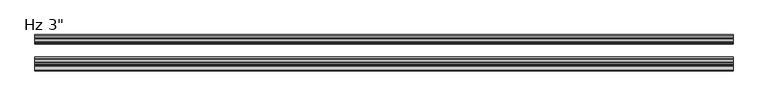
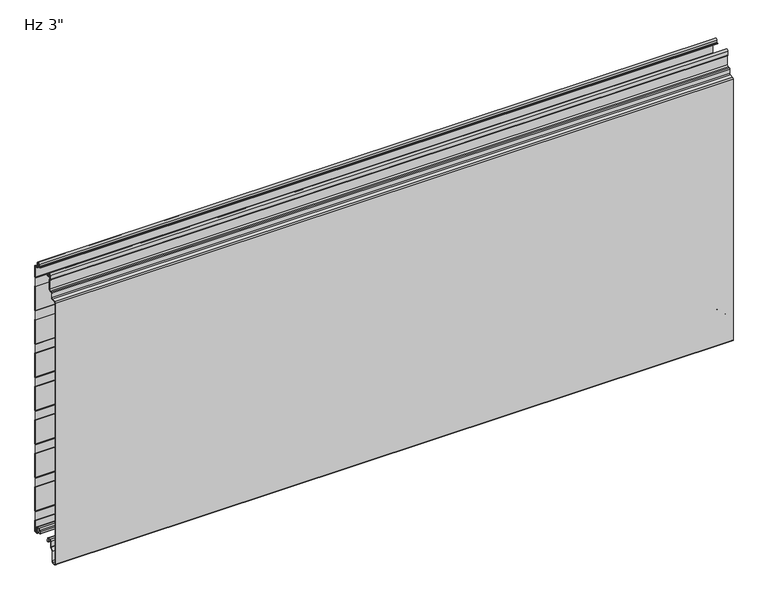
"""IFC4 building model written with IfcOpenShell, lengths in millimetres: plate geometry."""

from ifc_helpers import new_model, si_unit, point, frame, frame_2d, origin, place, context, project, spatial, polyline, circle_curve, trimmed, segment, composite_curve, outline, extrude, source, transform, mapped, element, save
from ifc_brep_helpers import plane_surface, cylinder_surface, revolved_surface, advanced_brep


def plate_dfc03996(model_context):
    return source(origin(), model_context, "Body", "SolidModel", [
        advanced_brep(
        [(-730.0, -17.0015159, 2.0313088), (-730.0, -18.0015191, 1.0313116), (-730.0, -19.0015104, 2.0313088), (-730.0, -19.0015105, 6.0315125), (-730.0, -18.0015159, 6.0315125), (-730.0, -18.0015159, 8.7237223), (-730.0, -14.7015202, 12.023718), (-730.0, -10.301529, 12.023718), (-730.0, -7.0015335, 8.7237225), (-730.0, -7.0015335, -1.6962564), (-730.0, -5.2315393, -3.4662506), (-730.0, -0.9999916, -3.4662506), (-730.0, -0.9999916, 21.034026), (-730.0, -2.2002307, 22.4196686), (-730.0, -2.2002307, 41.7948349), (-730.0, -1.0, 43.1804679), (-730.0, -1.0, 97.2338833), (-730.0, -2.2002307, 98.6195162), (-730.0, -2.2002307, 117.9946825), (-730.0, -1.0, 119.3803155), (-730.0, -1.0, 173.4337309), (-730.0, -2.2002307, 174.8193638), (-730.0, -2.2002307, 194.1945301), (-730.0, -1.0, 195.5801631), (-730.0, -1.0, 249.6335785), (-730.0, -2.2002307, 251.0192114), (-730.0, -2.2002307, 270.3943777), (-730.0, -1.0, 271.7800107), (-730.0, -1.0, 325.8334261), (-730.0, -2.2002307, 327.219059), (-730.0, -2.2002307, 346.5942253), (-730.0, -1.0, 347.9798583), (-730.0, -1.0, 402.0332737), (-730.0, -2.2002307, 403.4189066), (-730.0, -2.2002307, 422.7940729), (-730.0, -1.0, 424.1797059), (-730.0, -1.0, 478.2331213), (-730.0, -2.2002307, 479.6187542), (-730.0, -2.2002307, 498.9939205), (-730.0, -1.0, 500.3795535), (-730.0, -1.0, 554.4329689), (-730.0, -2.2002307, 555.8186018), (-730.0, -2.2002307, 575.1937681), (-730.0, -1.0, 576.5794011), (-730.0, -1.0, 601.0787013), (-730.0, -6.0026007, 601.0787013), (-730.0, -9.9974365, 604.9016499), (-730.0, -10.4046442, 613.3931719), (-730.0, -14.7059822, 613.3921924), (-730.0, -14.9256429, 609.2513685), (-730.0, -16.6743462, 607.5686884), (-730.0, -19.0015288, 607.5686884), (-730.0, -19.0015288, 608.5686884), (-730.0, -16.6743462, 608.5686884), (-730.0, -15.9247038, 609.2955779), (-730.0, -15.7045782, 613.4451655), (-730.0, -9.405912, 613.4435732), (-730.0, -8.9985844, 604.9495495), (-730.0, -6.0004836, 602.0787013), (-730.0, -1.4015652, 602.0787013), (-730.0, -0.001568, 600.678797), (-730.0, 2.09e-05, 576.7275849), (-730.0, -0.3417885, 575.8119353), (-730.0, -1.2002307, 574.8208877), (-730.0, -1.2002307, 556.1914823), (-730.0, -0.3417885, 555.2004346), (-730.0, 0.0, 554.2838177), (-730.0, 0.0, 500.5287046), (-730.0, -0.3417885, 499.6120877), (-730.0, -1.2002307, 498.6210401), (-730.0, -1.2002307, 479.9916347), (-730.0, -0.3417885, 479.000587), (-730.0, 0.0, 478.0839701), (-730.0, 0.0, 424.328857), (-730.0, -0.3417885, 423.4122401), (-730.0, -1.2002307, 422.4211925), (-730.0, -1.2002307, 403.7917871), (-730.0, -0.3417885, 402.8007394), (-730.0, 0.0, 401.8841225), (-730.0, 0.0, 348.1290094), (-730.0, -0.3417885, 347.2123925), (-730.0, -1.2002307, 346.2213449), (-730.0, -1.2002307, 327.5919395), (-730.0, -0.3417885, 326.6008918), (-730.0, 0.0, 325.6842749), (-730.0, 0.0, 271.9291618), (-730.0, -0.3417885, 271.0125449), (-730.0, -1.2002307, 270.0214973), (-730.0, -1.2002307, 251.3920919), (-730.0, -0.3417885, 250.4010442), (-730.0, 0.0, 249.4844273), (-730.0, 0.0, 195.7293142), (-730.0, -0.3417885, 194.8126973), (-730.0, -1.2002307, 193.8216497), (-730.0, -1.2002307, 175.1922443), (-730.0, -0.3417885, 174.2011966), (-730.0, 0.0, 173.2845797), (-730.0, 0.0, 119.5294666), (-730.0, -0.3417885, 118.6128497), (-730.0, -1.2002307, 117.6218021), (-730.0, -1.2002307, 98.9923967), (-730.0, -0.3417885, 98.001349), (-730.0, 0.0, 97.0847321), (-730.0, 0.0, 43.329619), (-730.0, -0.3417885, 42.4130021), (-730.0, -1.2002307, 41.4219545), (-730.0, -1.2002307, 22.7925491), (-730.0, -0.3417885, 21.8015014), (-730.0, 0.0, 20.8847931), (-730.0, 8.4e-06, -3.0662545), (-730.0, -1.3999878, -4.4662506), (-730.0, -5.2315393, -4.4662506), (-730.0, -8.0015335, -1.6962564), (-730.0, -8.0015335, 8.7237225), (-730.0, -10.301529, 11.023718), (-730.0, -14.7015202, 11.023718), (-730.0, -17.0015159, 8.7237223), (730.0, -17.0015159, 2.0313088), (730.0, -17.0015159, 8.7237223), (730.0, -14.7015202, 11.023718), (730.0, -10.301529, 11.023718), (730.0, -8.0015335, 8.7237225), (730.0, -8.0015335, -1.6962564), (730.0, -5.2315393, -4.4662506), (730.0, -1.3999878, -4.4662506), (730.0, 8.4e-06, -3.0662545), (730.0, 8.4e-06, 20.8848845), (730.0, -0.3417885, 21.8015014), (730.0, -1.2002307, 22.7925491), (730.0, -1.2002307, 41.4219545), (730.0, -0.3417885, 42.4130021), (730.0, 0.0, 43.329619), (730.0, 0.0, 97.0847321), (730.0, -0.3417885, 98.001349), (730.0, -1.2002307, 98.9923967), (730.0, -1.2002307, 117.6218021), (730.0, -0.3417885, 118.6128497), (730.0, 0.0, 119.5294666), (730.0, 0.0, 173.2845797), (730.0, -0.3417885, 174.2011966), (730.0, -1.2002307, 175.1922443), (730.0, -1.2002307, 193.8216497), (730.0, -0.3417885, 194.8126973), (730.0, 0.0, 195.7293142), (730.0, 0.0, 249.4844273), (730.0, -0.3417885, 250.4010442), (730.0, -1.2002307, 251.3920919), (730.0, -1.2002307, 270.0214973), (730.0, -0.3417885, 271.0125449), (730.0, 0.0, 271.9291618), (730.0, 0.0, 325.6842749), (730.0, -0.3417885, 326.6008918), (730.0, -1.2002307, 327.5919395), (730.0, -1.2002307, 346.2213449), (730.0, -0.3417885, 347.2123925), (730.0, 0.0, 348.1290094), (730.0, 0.0, 401.8841225), (730.0, -0.3417885, 402.8007394), (730.0, -1.2002307, 403.7917871), (730.0, -1.2002307, 422.4211925), (730.0, -0.3417885, 423.4122401), (730.0, 0.0, 424.328857), (730.0, 0.0, 478.0839701), (730.0, -0.3417885, 479.000587), (730.0, -1.2002307, 479.9916347), (730.0, -1.2002307, 498.6210401), (730.0, -0.3417885, 499.6120877), (730.0, 0.0, 500.5287046), (730.0, 0.0, 554.2838177), (730.0, -0.3417885, 555.2004346), (730.0, -1.2002307, 556.1914823), (730.0, -1.2002307, 574.8208877), (730.0, -0.3417885, 575.8119353), (730.0, 0.0, 576.7285522), (730.0, 2.09e-05, 600.678797), (730.0, -1.4015652, 602.0787013), (730.0, -6.0004836, 602.0787013), (730.0, -8.9985844, 604.9495495), (730.0, -9.405912, 613.4435732), (730.0, -15.7045782, 613.4451655), (730.0, -15.9247038, 609.2955779), (730.0, -16.6743462, 608.5686884), (730.0, -19.0015288, 608.5686884), (730.0, -19.0015288, 607.5686884), (730.0, -16.6743462, 607.5686884), (730.0, -14.9256429, 609.2513685), (730.0, -14.7059822, 613.3921924), (730.0, -10.4046442, 613.3931719), (730.0, -9.9974365, 604.9016499), (730.0, -6.0026007, 601.0787013), (730.0, -1.0, 601.0787013), (730.0, -1.0, 576.5794011), (730.0, -2.2002307, 575.1937681), (730.0, -2.2002307, 555.8186018), (730.0, -1.0, 554.4329689), (730.0, -1.0, 500.3795535), (730.0, -2.2002307, 498.9939205), (730.0, -2.2002307, 479.6187542), (730.0, -1.0, 478.2331213), (730.0, -1.0, 424.1797059), (730.0, -2.2002307, 422.7940729), (730.0, -2.2002307, 403.4189066), (730.0, -1.0, 402.0332737), (730.0, -1.0, 347.9798583), (730.0, -2.2002307, 346.5942253), (730.0, -2.2002307, 327.219059), (730.0, -1.0, 325.8334261), (730.0, -1.0, 271.7800107), (730.0, -2.2002307, 270.3943777), (730.0, -2.2002307, 251.0192114), (730.0, -1.0, 249.6335785), (730.0, -1.0, 195.5801631), (730.0, -2.2002307, 194.1945301), (730.0, -2.2002307, 174.8193638), (730.0, -1.0, 173.4337309), (730.0, -1.0, 119.3803155), (730.0, -2.2002307, 117.9946825), (730.0, -2.2002307, 98.6195162), (730.0, -1.0, 97.2338833), (730.0, -1.0, 43.1804679), (730.0, -2.2002307, 41.7948349), (730.0, -2.2002307, 22.4196686), (730.0, -0.9999916, 21.034026), (730.0, -0.9999916, -3.4662506), (730.0, -5.2315393, -3.4662506), (730.0, -7.0015335, -1.6962564), (730.0, -7.0015335, 8.7237225), (730.0, -10.301529, 12.023718), (730.0, -14.7015202, 12.023718), (730.0, -18.0015159, 8.7237223), (730.0, -18.0015159, 6.0315125), (730.0, -19.0015105, 6.0315125), (730.0, -19.0015105, 2.0313088), (730.0, -18.0015191, 1.0313116)],
        [
            (0, 1, circle_curve(frame((-730.0, -18.0015132, 2.0313088), z_axis=(-1.0, 0.0, 0.0), x_axis=(0.0, 0.0, 1.0)), 0.9999973)),
            (1, 2, circle_curve(frame((-730.0, -18.0015132, 2.0313088), z_axis=(-1.0, 0.0, 0.0), x_axis=(0.0, 0.0, 1.0)), 0.9999972)),
            (2, 3),
            (3, 4),
            (4, 5),
            (5, 6, circle_curve(frame((-730.0, -14.7015202, 8.7237223), z_axis=(-1.0, 0.0, 0.0), x_axis=(0.0, 0.0, 1.0)), 3.2999957)),
            (6, 7),
            (7, 8, circle_curve(frame((-730.0, -10.301529, 8.7237225), z_axis=(-1.0, 0.0, 0.0), x_axis=(0.0, 0.0, 1.0)), 3.2999955)),
            (8, 9),
            (9, 10, circle_curve(frame((-730.0, -5.2315393, -1.6962564), z_axis=(1.0, 0.0, 0.0), x_axis=(0.0, 0.0, 1.0)), 1.7699942)),
            (10, 11),
            (11, 12),
            (12, 13),
            (13, 14),
            (14, 15),
            (15, 16),
            (16, 17),
            (17, 18),
            (18, 19),
            (19, 20),
            (20, 21),
            (21, 22),
            (22, 23),
            (23, 24),
            (24, 25),
            (25, 26),
            (26, 27),
            (27, 28),
            (28, 29),
            (29, 30),
            (30, 31),
            (31, 32),
            (32, 33),
            (33, 34),
            (34, 35),
            (35, 36),
            (36, 37),
            (37, 38),
            (38, 39),
            (39, 40),
            (40, 41),
            (41, 42),
            (42, 43),
            (43, 44),
            (44, 45),
            (45, 46, circle_curve(frame((-730.0, -5.9867338, 605.0939817), z_axis=(-1.0, 0.0, 0.0), x_axis=(0.0, 0.0, 1.0)), 4.0153117)),
            (46, 47),
            (47, 48, circle_curve(frame((-730.0, -12.5552871, 613.2781032), z_axis=(1.0, 0.0, 0.0), x_axis=(0.0, 0.0, 1.0)), 2.153719)),
            (48, 49),
            (49, 50, circle_curve(frame((-730.0, -16.6743462, 609.3186869), z_axis=(-1.0, 0.0, 0.0), x_axis=(0.0, 0.0, 1.0)), 1.7499985)),
            (50, 51),
            (51, 52),
            (52, 53),
            (53, 54, circle_curve(frame((-730.0, -16.6743462, 609.3186869), z_axis=(1.0, 0.0, 0.0), x_axis=(0.0, 0.0, 1.0)), 0.7499985)),
            (54, 55),
            (55, 56, circle_curve(frame((-730.0, -12.5552871, 613.2781032), z_axis=(-1.0, 0.0, 0.0), x_axis=(0.0, 0.0, 1.0)), 3.153719)),
            (56, 57),
            (57, 58, circle_curve(frame((-730.0, -5.9867338, 605.0939817), z_axis=(1.0, 0.0, 0.0), x_axis=(0.0, 0.0, 1.0)), 3.0153117)),
            (58, 59),
            (59, 60, circle_curve(frame((-730.0, -1.4015652, 600.6787041), z_axis=(-1.0, 0.0, 0.0), x_axis=(0.0, 0.0, 1.0)), 1.3999972)),
            (60, 61),
            (61, 62, circle_curve(frame((-730.0, -1.3999972, 576.7285522), z_axis=(-1.0, 0.0, 0.0), x_axis=(0.0, 0.0, 1.0)), 1.3999972)),
            (62, 63),
            (63, 64),
            (64, 65),
            (65, 66, circle_curve(frame((-730.0, -1.3999972, 554.2838177), z_axis=(-1.0, 0.0, 0.0), x_axis=(0.0, 0.0, 1.0)), 1.3999972)),
            (66, 67),
            (67, 68, circle_curve(frame((-730.0, -1.3999972, 500.5287046), z_axis=(-1.0, 0.0, 0.0), x_axis=(0.0, 0.0, 1.0)), 1.3999972)),
            (68, 69),
            (69, 70),
            (70, 71),
            (71, 72, circle_curve(frame((-730.0, -1.3999972, 478.0839701), z_axis=(-1.0, 0.0, 0.0), x_axis=(0.0, 0.0, 1.0)), 1.3999972)),
            (72, 73),
            (73, 74, circle_curve(frame((-730.0, -1.3999972, 424.328857), z_axis=(-1.0, 0.0, 0.0), x_axis=(0.0, 0.0, 1.0)), 1.3999972)),
            (74, 75),
            (75, 76),
            (76, 77),
            (77, 78, circle_curve(frame((-730.0, -1.3999972, 401.8841225), z_axis=(-1.0, 0.0, 0.0), x_axis=(0.0, 0.0, 1.0)), 1.3999972)),
            (78, 79),
            (79, 80, circle_curve(frame((-730.0, -1.3999972, 348.1290094), z_axis=(-1.0, 0.0, 0.0), x_axis=(0.0, 0.0, 1.0)), 1.3999972)),
            (80, 81),
            (81, 82),
            (82, 83),
            (83, 84, circle_curve(frame((-730.0, -1.3999972, 325.6842749), z_axis=(-1.0, 0.0, 0.0), x_axis=(0.0, 0.0, 1.0)), 1.3999972)),
            (84, 85),
            (85, 86, circle_curve(frame((-730.0, -1.3999972, 271.9291618), z_axis=(-1.0, 0.0, 0.0), x_axis=(0.0, 0.0, 1.0)), 1.3999972)),
            (86, 87),
            (87, 88),
            (88, 89),
            (89, 90, circle_curve(frame((-730.0, -1.3999972, 249.4844273), z_axis=(-1.0, 0.0, 0.0), x_axis=(0.0, 0.0, 1.0)), 1.3999972)),
            (90, 91),
            (91, 92, circle_curve(frame((-730.0, -1.3999972, 195.7293142), z_axis=(-1.0, 0.0, 0.0), x_axis=(0.0, 0.0, 1.0)), 1.3999972)),
            (92, 93),
            (93, 94),
            (94, 95),
            (95, 96, circle_curve(frame((-730.0, -1.3999972, 173.2845797), z_axis=(-1.0, 0.0, 0.0), x_axis=(0.0, 0.0, 1.0)), 1.3999972)),
            (96, 97),
            (97, 98, circle_curve(frame((-730.0, -1.3999972, 119.5294666), z_axis=(-1.0, 0.0, 0.0), x_axis=(0.0, 0.0, 1.0)), 1.3999972)),
            (98, 99),
            (99, 100),
            (100, 101),
            (101, 102, circle_curve(frame((-730.0, -1.3999972, 97.0847321), z_axis=(-1.0, 0.0, 0.0), x_axis=(0.0, 0.0, 1.0)), 1.3999972)),
            (102, 103),
            (103, 104, circle_curve(frame((-730.0, -1.3999972, 43.329619), z_axis=(-1.0, 0.0, 0.0), x_axis=(0.0, 0.0, 1.0)), 1.3999972)),
            (104, 105),
            (105, 106),
            (106, 107),
            (107, 108, circle_curve(frame((-730.0, -1.3999972, 20.8848845), z_axis=(-1.0, 0.0, 0.0), x_axis=(0.0, 0.0, 1.0)), 1.3999972)),
            (108, 109),
            (109, 110, circle_curve(frame((-730.0, -1.3999878, -3.0662545), z_axis=(-1.0, 0.0, 0.0), x_axis=(0.0, 0.0, 1.0)), 1.3999962)),
            (110, 111),
            (111, 112, circle_curve(frame((-730.0, -5.2315393, -1.6962564), z_axis=(-1.0, 0.0, 0.0), x_axis=(0.0, 0.0, 1.0)), 2.7699942)),
            (112, 113),
            (113, 114, circle_curve(frame((-730.0, -10.301529, 8.7237225), z_axis=(1.0, 0.0, 0.0), x_axis=(0.0, 0.0, 1.0)), 2.2999955)),
            (114, 115),
            (115, 116, circle_curve(frame((-730.0, -14.7015202, 8.7237223), z_axis=(1.0, 0.0, 0.0), x_axis=(0.0, 0.0, 1.0)), 2.2999957)),
            (116, 0),
            (117, 118),
            (118, 119, circle_curve(frame((730.0, -14.7015202, 8.7237223), z_axis=(-1.0, 0.0, 0.0), x_axis=(0.0, 0.0, 1.0)), 2.2999957)),
            (119, 120),
            (120, 121, circle_curve(frame((730.0, -10.301529, 8.7237225), z_axis=(-1.0, 0.0, 0.0), x_axis=(0.0, 0.0, 1.0)), 2.2999955)),
            (121, 122),
            (122, 123, circle_curve(frame((730.0, -5.2315393, -1.6962564), z_axis=(1.0, 0.0, 0.0), x_axis=(0.0, 0.0, 1.0)), 2.7699942)),
            (123, 124),
            (124, 125, circle_curve(frame((730.0, -1.3999878, -3.0662545), z_axis=(1.0, 0.0, 0.0), x_axis=(0.0, 0.0, 1.0)), 1.3999962)),
            (125, 126),
            (126, 127, circle_curve(frame((730.0, -1.3999972, 20.8848845), z_axis=(1.0, 0.0, 0.0), x_axis=(0.0, 0.0, 1.0)), 1.3999972)),
            (127, 128),
            (128, 129),
            (129, 130),
            (130, 131, circle_curve(frame((730.0, -1.3999972, 43.329619), z_axis=(1.0, 0.0, 0.0), x_axis=(0.0, 0.0, 1.0)), 1.3999972)),
            (131, 132),
            (132, 133, circle_curve(frame((730.0, -1.3999972, 97.0847321), z_axis=(1.0, 0.0, 0.0), x_axis=(0.0, 0.0, 1.0)), 1.3999972)),
            (133, 134),
            (134, 135),
            (135, 136),
            (136, 137, circle_curve(frame((730.0, -1.3999972, 119.5294666), z_axis=(1.0, 0.0, 0.0), x_axis=(0.0, 0.0, 1.0)), 1.3999972)),
            (137, 138),
            (138, 139, circle_curve(frame((730.0, -1.3999972, 173.2845797), z_axis=(1.0, 0.0, 0.0), x_axis=(0.0, 0.0, 1.0)), 1.3999972)),
            (139, 140),
            (140, 141),
            (141, 142),
            (142, 143, circle_curve(frame((730.0, -1.3999972, 195.7293142), z_axis=(1.0, 0.0, 0.0), x_axis=(0.0, 0.0, 1.0)), 1.3999972)),
            (143, 144),
            (144, 145, circle_curve(frame((730.0, -1.3999972, 249.4844273), z_axis=(1.0, 0.0, 0.0), x_axis=(0.0, 0.0, 1.0)), 1.3999972)),
            (145, 146),
            (146, 147),
            (147, 148),
            (148, 149, circle_curve(frame((730.0, -1.3999972, 271.9291618), z_axis=(1.0, 0.0, 0.0), x_axis=(0.0, 0.0, 1.0)), 1.3999972)),
            (149, 150),
            (150, 151, circle_curve(frame((730.0, -1.3999972, 325.6842749), z_axis=(1.0, 0.0, 0.0), x_axis=(0.0, 0.0, 1.0)), 1.3999972)),
            (151, 152),
            (152, 153),
            (153, 154),
            (154, 155, circle_curve(frame((730.0, -1.3999972, 348.1290094), z_axis=(1.0, 0.0, 0.0), x_axis=(0.0, 0.0, 1.0)), 1.3999972)),
            (155, 156),
            (156, 157, circle_curve(frame((730.0, -1.3999972, 401.8841225), z_axis=(1.0, 0.0, 0.0), x_axis=(0.0, 0.0, 1.0)), 1.3999972)),
            (157, 158),
            (158, 159),
            (159, 160),
            (160, 161, circle_curve(frame((730.0, -1.3999972, 424.328857), z_axis=(1.0, 0.0, 0.0), x_axis=(0.0, 0.0, 1.0)), 1.3999972)),
            (161, 162),
            (162, 163, circle_curve(frame((730.0, -1.3999972, 478.0839701), z_axis=(1.0, 0.0, 0.0), x_axis=(0.0, 0.0, 1.0)), 1.3999972)),
            (163, 164),
            (164, 165),
            (165, 166),
            (166, 167, circle_curve(frame((730.0, -1.3999972, 500.5287046), z_axis=(1.0, 0.0, 0.0), x_axis=(0.0, 0.0, 1.0)), 1.3999972)),
            (167, 168),
            (168, 169, circle_curve(frame((730.0, -1.3999972, 554.2838177), z_axis=(1.0, 0.0, 0.0), x_axis=(0.0, 0.0, 1.0)), 1.3999972)),
            (169, 170),
            (170, 171),
            (171, 172),
            (172, 173, circle_curve(frame((730.0, -1.3999972, 576.7285522), z_axis=(1.0, 0.0, 0.0), x_axis=(0.0, 0.0, 1.0)), 1.3999972)),
            (173, 174),
            (174, 175, circle_curve(frame((730.0, -1.4015652, 600.6787041), z_axis=(1.0, 0.0, 0.0), x_axis=(0.0, 0.0, 1.0)), 1.3999972)),
            (175, 176),
            (176, 177, circle_curve(frame((730.0, -5.9867338, 605.0939817), z_axis=(-1.0, 0.0, 0.0), x_axis=(0.0, 0.0, 1.0)), 3.0153117)),
            (177, 178),
            (178, 179, circle_curve(frame((730.0, -12.5552871, 613.2781032), z_axis=(1.0, 0.0, 0.0), x_axis=(0.0, 0.0, 1.0)), 3.153719)),
            (179, 180),
            (180, 181, circle_curve(frame((730.0, -16.6743462, 609.3186869), z_axis=(-1.0, 0.0, 0.0), x_axis=(0.0, 0.0, 1.0)), 0.7499985)),
            (181, 182),
            (182, 183),
            (183, 184),
            (184, 185, circle_curve(frame((730.0, -16.6743462, 609.3186869), z_axis=(1.0, 0.0, 0.0), x_axis=(0.0, 0.0, 1.0)), 1.7499985)),
            (185, 186),
            (186, 187, circle_curve(frame((730.0, -12.5552871, 613.2781032), z_axis=(-1.0, 0.0, 0.0), x_axis=(0.0, 0.0, 1.0)), 2.153719)),
            (187, 188),
            (188, 189, circle_curve(frame((730.0, -5.9867338, 605.0939817), z_axis=(1.0, 0.0, 0.0), x_axis=(0.0, 0.0, 1.0)), 4.0153117)),
            (189, 190),
            (190, 191),
            (191, 192),
            (192, 193),
            (193, 194),
            (194, 195),
            (195, 196),
            (196, 197),
            (197, 198),
            (198, 199),
            (199, 200),
            (200, 201),
            (201, 202),
            (202, 203),
            (203, 204),
            (204, 205),
            (205, 206),
            (206, 207),
            (207, 208),
            (208, 209),
            (209, 210),
            (210, 211),
            (211, 212),
            (212, 213),
            (213, 214),
            (214, 215),
            (215, 216),
            (216, 217),
            (217, 218),
            (218, 219),
            (219, 220),
            (220, 221),
            (221, 222),
            (222, 223),
            (223, 224),
            (224, 225, circle_curve(frame((730.0, -5.2315393, -1.6962564), z_axis=(-1.0, 0.0, 0.0), x_axis=(0.0, 0.0, 1.0)), 1.7699942)),
            (225, 226),
            (226, 227, circle_curve(frame((730.0, -10.301529, 8.7237225), z_axis=(1.0, 0.0, 0.0), x_axis=(0.0, 0.0, 1.0)), 3.2999955)),
            (227, 228),
            (228, 229, circle_curve(frame((730.0, -14.7015202, 8.7237223), z_axis=(1.0, 0.0, 0.0), x_axis=(0.0, 0.0, 1.0)), 3.2999957)),
            (229, 230),
            (230, 231),
            (231, 232),
            (232, 233, circle_curve(frame((730.0, -18.0015132, 2.0313088), z_axis=(1.0, 0.0, 0.0), x_axis=(0.0, 0.0, 1.0)), 0.9999972)),
            (233, 117, circle_curve(frame((730.0, -18.0015132, 2.0313088), z_axis=(1.0, 0.0, 0.0), x_axis=(0.0, 0.0, 1.0)), 0.9999973)),
            (116, 118),
            (117, 0),
            (115, 119),
            (114, 120),
            (113, 121),
            (112, 122),
            (111, 123),
            (110, 124),
            (109, 125),
            (108, 126),
            (90, 144),
            (143, 91),
            (107, 127),
            (106, 128),
            (105, 129),
            (103, 131),
            (130, 104),
            (101, 133),
            (132, 102),
            (86, 148),
            (147, 87),
            (142, 92),
            (141, 93),
            (96, 138),
            (137, 97),
            (89, 145),
            (88, 146),
            (85, 149),
            (136, 98),
            (99, 135),
            (134, 100),
            (95, 139),
            (94, 140),
            (2, 232),
            (231, 3),
            (1, 233),
            (84, 150),
            (83, 151),
            (82, 152),
            (81, 153),
            (80, 154),
            (79, 155),
            (78, 156),
            (77, 157),
            (76, 158),
            (75, 159),
            (74, 160),
            (73, 161),
            (72, 162),
            (71, 163),
            (70, 164),
            (69, 165),
            (68, 166),
            (67, 167),
            (66, 168),
            (65, 169),
            (64, 170),
            (63, 171),
            (62, 172),
            (61, 173),
            (60, 174),
            (59, 175),
            (58, 176),
            (57, 177),
            (56, 178),
            (55, 179),
            (54, 180),
            (53, 181),
            (52, 182),
            (51, 183),
            (50, 184),
            (49, 185),
            (48, 186),
            (47, 187),
            (46, 188),
            (45, 189),
            (44, 190),
            (43, 191),
            (42, 192),
            (41, 193),
            (40, 194),
            (39, 195),
            (38, 196),
            (37, 197),
            (36, 198),
            (35, 199),
            (34, 200),
            (33, 201),
            (32, 202),
            (31, 203),
            (30, 204),
            (29, 205),
            (28, 206),
            (27, 207),
            (26, 208),
            (25, 209),
            (24, 210),
            (23, 211),
            (22, 212),
            (21, 213),
            (20, 214),
            (19, 215),
            (18, 216),
            (17, 217),
            (16, 218),
            (15, 219),
            (14, 220),
            (13, 221),
            (12, 222),
            (11, 223),
            (10, 224),
            (9, 225),
            (8, 226),
            (7, 227),
            (6, 228),
            (5, 229),
            (4, 230),
        ],
        [
            plane_surface(frame((-730.0, 0.0, 304.8), z_axis=(-1.0, 0.0, 0.0), x_axis=(0.0, 1.0, 0.0))),
            plane_surface(frame((730.0, 0.0, 304.8), z_axis=(1.0, 0.0, 0.0), x_axis=(0.0, 1.0, 0.0))),
            plane_surface(frame((-730.0, -17.0015159, 2.0313088), z_axis=(0.0, 1.0, 0.0), x_axis=(1.0, 0.0, 0.0))),
            revolved_surface(polyline([(730.0, -14.7015202, 11.023718), (-730.0, -14.7015202, 11.023718)]), (-730.0, -14.7015202, 8.7237223), (1.0, 0.0, 0.0)),
            plane_surface(frame((-730.0, -14.7015202, 11.023718), z_axis=(0.0, 0.0, -1.0), x_axis=(1.0, 0.0, 0.0))),
            revolved_surface(polyline([(730.0, -10.301529, 11.023717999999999), (-730.0, -10.301529, 11.023717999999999)]), (-730.0, -10.301529, 8.7237225), (1.0, 0.0, 0.0)),
            plane_surface(frame((-730.0, -8.0015335, 8.7237225), z_axis=(0.0, -1.0, 0.0), x_axis=(1.0, 0.0, 0.0))),
            cylinder_surface(frame((-730.0, -5.2315393, -1.6962564), z_axis=(-1.0, 0.0, 0.0), x_axis=(0.0, 0.0, 1.0)), 2.7699942),
            plane_surface(frame((-730.0, -5.2315393, -4.4662506), z_axis=(0.0, 0.0, -1.0), x_axis=(1.0, 0.0, 0.0))),
            cylinder_surface(frame((-730.0, -1.3999878, -3.0662545), z_axis=(-1.0, 0.0, 0.0), x_axis=(0.0, 0.0, 1.0)), 1.3999962),
            plane_surface(frame((-730.0, 8.4e-06, -3.0662545), z_axis=(0.0, 1.0, 0.0), x_axis=(1.0, 0.0, 0.0))),
            plane_surface(frame((-730.0, 0.0, 195.7293142), z_axis=(0.0, 1.0, 0.0), x_axis=(1.0, 0.0, 0.0))),
            cylinder_surface(frame((-730.0, -1.3999972, 20.8848845), z_axis=(-1.0, 0.0, 0.0), x_axis=(0.0, 0.0, 1.0)), 1.3999972),
            plane_surface(frame((-730.0, -0.3417885, 21.8015014), z_axis=(0.0, 0.755864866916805, 0.6547276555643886), x_axis=(1.0, 0.0, 0.0))),
            plane_surface(frame((-730.0, -1.2002307, 32.1072518), z_axis=(0.0, 1.0, 0.0), x_axis=(1.0, 0.0, 0.0))),
            cylinder_surface(frame((-730.0, -1.3999972, 43.329619), z_axis=(-1.0, 0.0, 0.0), x_axis=(0.0, 0.0, 1.0)), 1.3999972),
            plane_surface(frame((-730.0, -1.2002307, 41.4219545), z_axis=(0.0, 0.755864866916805, -0.6547276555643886), x_axis=(1.0, 0.0, 0.0))),
            cylinder_surface(frame((-730.0, -1.3999972, 97.0847321), z_axis=(-1.0, 0.0, 0.0), x_axis=(0.0, 0.0, 1.0)), 1.3999972),
            plane_surface(frame((-730.0, -1.2002307, 270.0214973), z_axis=(0.0, 0.755864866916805, -0.6547276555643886), x_axis=(1.0, 0.0, 0.0))),
            cylinder_surface(frame((-730.0, -1.3999972, 195.7293142), z_axis=(-1.0, 0.0, 0.0), x_axis=(0.0, 0.0, 1.0)), 1.3999972),
            plane_surface(frame((-730.0, -1.2002307, 193.8216497), z_axis=(0.0, 0.755864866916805, -0.6547276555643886), x_axis=(1.0, 0.0, 0.0))),
            plane_surface(frame((-730.0, 0.0, 119.5294666), z_axis=(0.0, 1.0, 0.0), x_axis=(1.0, 0.0, 0.0))),
            cylinder_surface(frame((-730.0, -1.3999972, 249.4844273), z_axis=(-1.0, 0.0, 0.0), x_axis=(0.0, 0.0, 1.0)), 1.3999972),
            plane_surface(frame((-730.0, -0.3417885, 250.4010442), z_axis=(0.0, 0.755864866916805, 0.6547276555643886), x_axis=(1.0, 0.0, 0.0))),
            plane_surface(frame((-730.0, -1.2002307, 260.7067946), z_axis=(0.0, 1.0, 0.0), x_axis=(1.0, 0.0, 0.0))),
            cylinder_surface(frame((-730.0, -1.3999972, 271.9291618), z_axis=(-1.0, 0.0, 0.0), x_axis=(0.0, 0.0, 1.0)), 1.3999972),
            cylinder_surface(frame((-730.0, -1.3999972, 119.5294666), z_axis=(-1.0, 0.0, 0.0), x_axis=(0.0, 0.0, 1.0)), 1.3999972),
            plane_surface(frame((-730.0, -1.2002307, 108.3070994), z_axis=(0.0, 1.0, 0.0), x_axis=(1.0, 0.0, 0.0))),
            plane_surface(frame((-730.0, -0.3417885, 98.001349), z_axis=(0.0, 0.755864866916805, 0.6547276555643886), x_axis=(1.0, 0.0, 0.0))),
            plane_surface(frame((-730.0, -1.2002307, 117.6218021), z_axis=(0.0, 0.755864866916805, -0.6547276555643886), x_axis=(1.0, 0.0, 0.0))),
            plane_surface(frame((-730.0, 0.0, 43.329619), z_axis=(0.0, 1.0, 0.0), x_axis=(1.0, 0.0, 0.0))),
            cylinder_surface(frame((-730.0, -1.3999972, 173.2845797), z_axis=(-1.0, 0.0, 0.0), x_axis=(0.0, 0.0, 1.0)), 1.3999972),
            plane_surface(frame((-730.0, -0.3417885, 174.2011966), z_axis=(0.0, 0.755864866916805, 0.6547276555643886), x_axis=(1.0, 0.0, 0.0))),
            plane_surface(frame((-730.0, -1.2002307, 184.506947), z_axis=(0.0, 1.0, 0.0), x_axis=(1.0, 0.0, 0.0))),
            plane_surface(frame((-730.0, -19.0015105, 6.0315125), z_axis=(0.0, -1.0, 0.0), x_axis=(1.0, 0.0, 0.0))),
            cylinder_surface(frame((-730.0, -18.0015132, 2.0313088), z_axis=(-1.0, 0.0, 0.0), x_axis=(0.0, 0.0, 1.0)), 0.9999972),
            cylinder_surface(frame((-730.0, -18.0015132, 2.0313088), z_axis=(-1.0, 0.0, 0.0), x_axis=(0.0, 0.0, 1.0)), 0.9999973),
            plane_surface(frame((-730.0, 0.0, 271.9291618), z_axis=(0.0, 1.0, 0.0), x_axis=(1.0, 0.0, 0.0))),
            cylinder_surface(frame((-730.0, -1.3999972, 325.6842749), z_axis=(-1.0, 0.0, 0.0), x_axis=(0.0, 0.0, 1.0)), 1.3999972),
            plane_surface(frame((-730.0, -0.3417885, 326.6008918), z_axis=(0.0, 0.755864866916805, 0.6547276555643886), x_axis=(1.0, 0.0, 0.0))),
            plane_surface(frame((-730.0, -1.2002307, 336.9066422), z_axis=(0.0, 1.0, 0.0), x_axis=(1.0, 0.0, 0.0))),
            plane_surface(frame((-730.0, -1.2002307, 346.2213449), z_axis=(0.0, 0.755864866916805, -0.6547276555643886), x_axis=(1.0, 0.0, 0.0))),
            cylinder_surface(frame((-730.0, -1.3999972, 348.1290094), z_axis=(-1.0, 0.0, 0.0), x_axis=(0.0, 0.0, 1.0)), 1.3999972),
            plane_surface(frame((-730.0, 0.0, 348.1290094), z_axis=(0.0, 1.0, 0.0), x_axis=(1.0, 0.0, 0.0))),
            cylinder_surface(frame((-730.0, -1.3999972, 401.8841225), z_axis=(-1.0, 0.0, 0.0), x_axis=(0.0, 0.0, 1.0)), 1.3999972),
            plane_surface(frame((-730.0, -0.3417885, 402.8007394), z_axis=(0.0, 0.755864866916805, 0.6547276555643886), x_axis=(1.0, 0.0, 0.0))),
            plane_surface(frame((-730.0, -1.2002307, 413.1064898), z_axis=(0.0, 1.0, 0.0), x_axis=(1.0, 0.0, 0.0))),
            plane_surface(frame((-730.0, -1.2002307, 422.4211925), z_axis=(0.0, 0.755864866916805, -0.6547276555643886), x_axis=(1.0, 0.0, 0.0))),
            cylinder_surface(frame((-730.0, -1.3999972, 424.328857), z_axis=(-1.0, 0.0, 0.0), x_axis=(0.0, 0.0, 1.0)), 1.3999972),
            plane_surface(frame((-730.0, 0.0, 424.328857), z_axis=(0.0, 1.0, 0.0), x_axis=(1.0, 0.0, 0.0))),
            cylinder_surface(frame((-730.0, -1.3999972, 478.0839701), z_axis=(-1.0, 0.0, 0.0), x_axis=(0.0, 0.0, 1.0)), 1.3999972),
            plane_surface(frame((-730.0, -0.3417885, 479.000587), z_axis=(0.0, 0.755864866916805, 0.6547276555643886), x_axis=(1.0, 0.0, 0.0))),
            plane_surface(frame((-730.0, -1.2002307, 489.3063374), z_axis=(0.0, 1.0, 0.0), x_axis=(1.0, 0.0, 0.0))),
            plane_surface(frame((-730.0, -1.2002307, 498.6210401), z_axis=(0.0, 0.755864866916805, -0.6547276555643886), x_axis=(1.0, 0.0, 0.0))),
            cylinder_surface(frame((-730.0, -1.3999972, 500.5287046), z_axis=(-1.0, 0.0, 0.0), x_axis=(0.0, 0.0, 1.0)), 1.3999972),
            plane_surface(frame((-730.0, 0.0, 500.5287046), z_axis=(0.0, 1.0, 0.0), x_axis=(1.0, 0.0, 0.0))),
            cylinder_surface(frame((-730.0, -1.3999972, 554.2838177), z_axis=(-1.0, 0.0, 0.0), x_axis=(0.0, 0.0, 1.0)), 1.3999972),
            plane_surface(frame((-730.0, -0.3417885, 555.2004346), z_axis=(0.0, 0.755864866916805, 0.6547276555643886), x_axis=(1.0, 0.0, 0.0))),
            plane_surface(frame((-730.0, -1.2002307, 565.506185), z_axis=(0.0, 1.0, 0.0), x_axis=(1.0, 0.0, 0.0))),
            plane_surface(frame((-730.0, -1.2002307, 574.8208877), z_axis=(0.0, 0.755864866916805, -0.6547276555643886), x_axis=(1.0, 0.0, 0.0))),
            cylinder_surface(frame((-730.0, -1.3999972, 576.7285522), z_axis=(-1.0, 0.0, 0.0), x_axis=(0.0, 0.0, 1.0)), 1.3999972),
            plane_surface(frame((-730.0, 2.09e-05, 576.7275849), z_axis=(0.0, 1.0, 0.0), x_axis=(1.0, 0.0, 0.0))),
            cylinder_surface(frame((-730.0, -1.4015652, 600.6787041), z_axis=(-1.0, 0.0, 0.0), x_axis=(0.0, 0.0, 1.0)), 1.3999972),
            plane_surface(frame((-730.0, -1.4015652, 602.0787013), z_axis=(0.0, 0.0, 1.0), x_axis=(1.0, 0.0, 0.0))),
            revolved_surface(polyline([(730.0, -5.9867338, 608.1092934), (-730.0, -5.9867338, 608.1092934)]), (-730.0, -5.9867338, 605.0939817), (1.0, 0.0, 0.0)),
            plane_surface(frame((-730.0, -8.9985844, 604.9495495), z_axis=(0.0, 0.9988521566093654, 0.047899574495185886), x_axis=(1.0, 0.0, 0.0))),
            cylinder_surface(frame((-730.0, -12.5552871, 613.2781032), z_axis=(-1.0, 0.0, 0.0), x_axis=(0.0, 0.0, 1.0)), 3.153719),
            plane_surface(frame((-730.0, -15.7045782, 613.4451655), z_axis=(0.0, -0.9985959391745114, 0.05297310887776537), x_axis=(1.0, 0.0, 0.0))),
            revolved_surface(polyline([(730.0, -16.6743462, 610.0686853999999), (-730.0, -16.6743462, 610.0686853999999)]), (-730.0, -16.6743462, 609.3186869), (1.0, 0.0, 0.0)),
            plane_surface(frame((-730.0, -17.5871409, 608.5686884), z_axis=(0.0, 0.0, 1.0), x_axis=(1.0, 0.0, 0.0))),
            plane_surface(frame((-730.0, -19.0015288, 608.5686884), z_axis=(0.0, -1.0, 0.0), x_axis=(1.0, 0.0, 0.0))),
            plane_surface(frame((-730.0, -17.5871409, 607.5686884), z_axis=(0.0, 0.0, -1.0), x_axis=(1.0, 0.0, 0.0))),
            cylinder_surface(frame((-730.0, -16.6743462, 609.3186869), z_axis=(-1.0, 0.0, 0.0), x_axis=(0.0, 0.0, 1.0)), 1.7499985),
            plane_surface(frame((-730.0, -14.9256429, 609.2513685), z_axis=(0.0, 0.998595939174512, -0.05297310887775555), x_axis=(1.0, 0.0, 0.0))),
            revolved_surface(polyline([(730.0, -12.5552871, 615.4318222), (-730.0, -12.5552871, 615.4318222)]), (-730.0, -12.5552871, 613.2781032), (1.0, 0.0, 0.0)),
            plane_surface(frame((-730.0, -10.4046442, 613.3931719), z_axis=(0.0, -0.9988521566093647, -0.04789957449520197), x_axis=(1.0, 0.0, 0.0))),
            cylinder_surface(frame((-730.0, -5.9867338, 605.0939817), z_axis=(-1.0, 0.0, 0.0), x_axis=(0.0, 0.0, 1.0)), 4.0153117),
            plane_surface(frame((-730.0, -6.0026007, 601.0787013), z_axis=(0.0, 0.0, -1.0), x_axis=(1.0, 0.0, 0.0))),
            plane_surface(frame((-730.0, -1.0, 601.0787013), z_axis=(0.0, -1.0, 0.0), x_axis=(1.0, 0.0, 0.0))),
            plane_surface(frame((-730.0, -1.0, 576.5794011), z_axis=(0.0, -0.755864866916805, 0.6547276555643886), x_axis=(1.0, 0.0, 0.0))),
            plane_surface(frame((-730.0, -2.2002307, 575.1937681), z_axis=(0.0, -1.0, 0.0), x_axis=(1.0, 0.0, 0.0))),
            plane_surface(frame((-730.0, -2.2002307, 555.8186018), z_axis=(0.0, -0.755864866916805, -0.6547276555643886), x_axis=(1.0, 0.0, 0.0))),
            plane_surface(frame((-730.0, -1.0, 554.4329689), z_axis=(0.0, -1.0, 0.0), x_axis=(1.0, 0.0, 0.0))),
            plane_surface(frame((-730.0, -1.0, 500.3795535), z_axis=(0.0, -0.755864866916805, 0.6547276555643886), x_axis=(1.0, 0.0, 0.0))),
            plane_surface(frame((-730.0, -2.2002307, 498.9939205), z_axis=(0.0, -1.0, 0.0), x_axis=(1.0, 0.0, 0.0))),
            plane_surface(frame((-730.0, -2.2002307, 479.6187542), z_axis=(0.0, -0.755864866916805, -0.6547276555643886), x_axis=(1.0, 0.0, 0.0))),
            plane_surface(frame((-730.0, -1.0, 478.2331213), z_axis=(0.0, -1.0, 0.0), x_axis=(1.0, 0.0, 0.0))),
            plane_surface(frame((-730.0, -1.0, 424.1797059), z_axis=(0.0, -0.755864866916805, 0.6547276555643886), x_axis=(1.0, 0.0, 0.0))),
            plane_surface(frame((-730.0, -2.2002307, 422.7940729), z_axis=(0.0, -1.0, 0.0), x_axis=(1.0, 0.0, 0.0))),
            plane_surface(frame((-730.0, -2.2002307, 403.4189066), z_axis=(0.0, -0.755864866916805, -0.6547276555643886), x_axis=(1.0, 0.0, 0.0))),
            plane_surface(frame((-730.0, -1.0, 402.0332737), z_axis=(0.0, -1.0, 0.0), x_axis=(1.0, 0.0, 0.0))),
            plane_surface(frame((-730.0, -1.0, 347.9798583), z_axis=(0.0, -0.755864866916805, 0.6547276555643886), x_axis=(1.0, 0.0, 0.0))),
            plane_surface(frame((-730.0, -2.2002307, 346.5942253), z_axis=(0.0, -1.0, 0.0), x_axis=(1.0, 0.0, 0.0))),
            plane_surface(frame((-730.0, -2.2002307, 327.219059), z_axis=(0.0, -0.755864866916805, -0.6547276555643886), x_axis=(1.0, 0.0, 0.0))),
            plane_surface(frame((-730.0, -1.0, 325.8334261), z_axis=(0.0, -1.0, 0.0), x_axis=(1.0, 0.0, 0.0))),
            plane_surface(frame((-730.0, -1.0, 271.7800107), z_axis=(0.0, -0.755864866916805, 0.6547276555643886), x_axis=(1.0, 0.0, 0.0))),
            plane_surface(frame((-730.0, -2.2002307, 270.3943777), z_axis=(0.0, -1.0, 0.0), x_axis=(1.0, 0.0, 0.0))),
            plane_surface(frame((-730.0, -2.2002307, 251.0192114), z_axis=(0.0, -0.755864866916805, -0.6547276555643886), x_axis=(1.0, 0.0, 0.0))),
            plane_surface(frame((-730.0, -1.0, 249.6335785), z_axis=(0.0, -1.0, 0.0), x_axis=(1.0, 0.0, 0.0))),
            plane_surface(frame((-730.0, -1.0, 195.5801631), z_axis=(0.0, -0.755864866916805, 0.6547276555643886), x_axis=(1.0, 0.0, 0.0))),
            plane_surface(frame((-730.0, -2.2002307, 194.1945301), z_axis=(0.0, -1.0, 0.0), x_axis=(1.0, 0.0, 0.0))),
            plane_surface(frame((-730.0, -2.2002307, 174.8193638), z_axis=(0.0, -0.755864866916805, -0.6547276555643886), x_axis=(1.0, 0.0, 0.0))),
            plane_surface(frame((-730.0, -1.0, 173.4337309), z_axis=(0.0, -1.0, 0.0), x_axis=(1.0, 0.0, 0.0))),
            plane_surface(frame((-730.0, -1.0, 119.3803155), z_axis=(0.0, -0.755864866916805, 0.6547276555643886), x_axis=(1.0, 0.0, 0.0))),
            plane_surface(frame((-730.0, -2.2002307, 117.9946825), z_axis=(0.0, -1.0, 0.0), x_axis=(1.0, 0.0, 0.0))),
            plane_surface(frame((-730.0, -2.2002307, 98.6195162), z_axis=(0.0, -0.755864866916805, -0.6547276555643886), x_axis=(1.0, 0.0, 0.0))),
            plane_surface(frame((-730.0, -1.0, 97.2338833), z_axis=(0.0, -1.0, 0.0), x_axis=(1.0, 0.0, 0.0))),
            plane_surface(frame((-730.0, -1.0, 43.1804679), z_axis=(0.0, -0.755864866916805, 0.6547276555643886), x_axis=(1.0, 0.0, 0.0))),
            plane_surface(frame((-730.0, -2.2002307, 41.7948349), z_axis=(0.0, -1.0, 0.0), x_axis=(1.0, 0.0, 0.0))),
            plane_surface(frame((-730.0, -2.2002307, 22.4196686), z_axis=(0.0, -0.755864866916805, -0.6547276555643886), x_axis=(1.0, 0.0, 0.0))),
            plane_surface(frame((-730.0, -0.9999916, 21.034026), z_axis=(0.0, -1.0, 0.0), x_axis=(1.0, 0.0, 0.0))),
            plane_surface(frame((-730.0, -0.9999916, -3.4662506), z_axis=(0.0, 0.0, 1.0), x_axis=(1.0, 0.0, 0.0))),
            revolved_surface(polyline([(730.0, -5.2315393, 0.07373779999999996), (-730.0, -5.2315393, 0.07373779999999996)]), (-730.0, -5.2315393, -1.6962564), (1.0, 0.0, 0.0)),
            plane_surface(frame((-730.0, -7.0015335, -1.6962564), z_axis=(0.0, 1.0, 0.0), x_axis=(1.0, 0.0, 0.0))),
            cylinder_surface(frame((-730.0, -10.301529, 8.7237225), z_axis=(-1.0, 0.0, 0.0), x_axis=(0.0, 0.0, 1.0)), 3.2999955),
            plane_surface(frame((-730.0, -10.301529, 12.023718), z_axis=(0.0, 0.0, 1.0), x_axis=(1.0, 0.0, 0.0))),
            cylinder_surface(frame((-730.0, -14.7015202, 8.7237223), z_axis=(-1.0, 0.0, 0.0), x_axis=(0.0, 0.0, 1.0)), 3.2999957),
            plane_surface(frame((-730.0, -18.0015159, 8.7237223), z_axis=(0.0, -1.0, 0.0), x_axis=(1.0, 0.0, 0.0))),
            plane_surface(frame((-730.0, -18.0015159, 6.0315125), z_axis=(0.0, 0.0, 1.0), x_axis=(1.0, 0.0, 0.0))),
        ],
        [
            (0, [[1, 2, 3, 4, 5, 6, 7, 8, 9, 10, 11, 12, 13, 14, 15, 16, 17, 18, 19, 20, 21, 22, 23, 24, 25, 26, 27, 28, 29, 30, 31, 32, 33, 34, 35, 36, 37, 38, 39, 40, 41, 42, 43, 44, 45, 46, 47, 48, 49, 50, 51, 52, 53, 54, 55, 56, 57, 58, 59, 60, 61, 62, 63, 64, 65, 66, 67, 68, 69, 70, 71, 72, 73, 74, 75, 76, 77, 78, 79, 80, 81, 82, 83, 84, 85, 86, 87, 88, 89, 90, 91, 92, 93, 94, 95, 96, 97, 98, 99, 100, 101, 102, 103, 104, 105, 106, 107, 108, 109, 110, 111, 112, 113, 114, 115, 116, 117]]),
            (1, [[118, 119, 120, 121, 122, 123, 124, 125, 126, 127, 128, 129, 130, 131, 132, 133, 134, 135, 136, 137, 138, 139, 140, 141, 142, 143, 144, 145, 146, 147, 148, 149, 150, 151, 152, 153, 154, 155, 156, 157, 158, 159, 160, 161, 162, 163, 164, 165, 166, 167, 168, 169, 170, 171, 172, 173, 174, 175, 176, 177, 178, 179, 180, 181, 182, 183, 184, 185, 186, 187, 188, 189, 190, 191, 192, 193, 194, 195, 196, 197, 198, 199, 200, 201, 202, 203, 204, 205, 206, 207, 208, 209, 210, 211, 212, 213, 214, 215, 216, 217, 218, 219, 220, 221, 222, 223, 224, 225, 226, 227, 228, 229, 230, 231, 232, 233, 234]]),
            (2, [[235, -118, 236, -117]]),
            (3, [[237, -119, -235, -116]]),
            (4, [[238, -120, -237, -115]]),
            (5, [[239, -121, -238, -114]]),
            (6, [[240, -122, -239, -113]]),
            (7, [[241, -123, -240, -112]]),
            (8, [[242, -124, -241, -111]]),
            (9, [[243, -125, -242, -110]]),
            (10, [[244, -126, -243, -109]]),
            (11, [[245, -144, 246, -91]]),
            (12, [[247, -127, -244, -108]]),
            (13, [[248, -128, -247, -107]]),
            (14, [[-106, 249, -129, -248]]),
            (15, [[250, -131, 251, -104]]),
            (16, [[-251, -130, -249, -105]]),
            (17, [[252, -133, 253, -102]]),
            (18, [[254, -148, 255, -87]]),
            (19, [[-246, -143, 256, -92]]),
            (20, [[-256, -142, 257, -93]]),
            (21, [[258, -138, 259, -97]]),
            (22, [[260, -145, -245, -90]]),
            (23, [[261, -146, -260, -89]]),
            (24, [[-88, -255, -147, -261]]),
            (25, [[262, -149, -254, -86]]),
            (26, [[-259, -137, 263, -98]]),
            (27, [[-100, 264, -135, 265]]),
            (28, [[-265, -134, -252, -101]]),
            (29, [[-263, -136, -264, -99]]),
            (30, [[-253, -132, -250, -103]]),
            (31, [[266, -139, -258, -96]]),
            (32, [[267, -140, -266, -95]]),
            (33, [[-94, -257, -141, -267]]),
            (34, [[268, -232, 269, -3]]),
            (35, [[270, -233, -268, -2]]),
            (36, [[-236, -234, -270, -1]]),
            (37, [[271, -150, -262, -85]]),
            (38, [[272, -151, -271, -84]]),
            (39, [[273, -152, -272, -83]]),
            (40, [[-82, 274, -153, -273]]),
            (41, [[275, -154, -274, -81]]),
            (42, [[276, -155, -275, -80]]),
            (43, [[277, -156, -276, -79]]),
            (44, [[278, -157, -277, -78]]),
            (45, [[279, -158, -278, -77]]),
            (46, [[-76, 280, -159, -279]]),
            (47, [[281, -160, -280, -75]]),
            (48, [[282, -161, -281, -74]]),
            (49, [[283, -162, -282, -73]]),
            (50, [[284, -163, -283, -72]]),
            (51, [[285, -164, -284, -71]]),
            (52, [[-70, 286, -165, -285]]),
            (53, [[287, -166, -286, -69]]),
            (54, [[288, -167, -287, -68]]),
            (55, [[289, -168, -288, -67]]),
            (56, [[290, -169, -289, -66]]),
            (57, [[291, -170, -290, -65]]),
            (58, [[-64, 292, -171, -291]]),
            (59, [[293, -172, -292, -63]]),
            (60, [[294, -173, -293, -62]]),
            (61, [[295, -174, -294, -61]]),
            (62, [[296, -175, -295, -60]]),
            (63, [[297, -176, -296, -59]]),
            (64, [[298, -177, -297, -58]]),
            (65, [[299, -178, -298, -57]]),
            (66, [[300, -179, -299, -56]]),
            (67, [[301, -180, -300, -55]]),
            (68, [[302, -181, -301, -54]]),
            (69, [[-53, 303, -182, -302]]),
            (70, [[304, -183, -303, -52]]),
            (71, [[-51, 305, -184, -304]]),
            (72, [[306, -185, -305, -50]]),
            (73, [[307, -186, -306, -49]]),
            (74, [[308, -187, -307, -48]]),
            (75, [[309, -188, -308, -47]]),
            (76, [[310, -189, -309, -46]]),
            (77, [[311, -190, -310, -45]]),
            (78, [[312, -191, -311, -44]]),
            (79, [[313, -192, -312, -43]]),
            (80, [[314, -193, -313, -42]]),
            (81, [[315, -194, -314, -41]]),
            (82, [[316, -195, -315, -40]]),
            (83, [[317, -196, -316, -39]]),
            (84, [[318, -197, -317, -38]]),
            (85, [[319, -198, -318, -37]]),
            (86, [[320, -199, -319, -36]]),
            (87, [[321, -200, -320, -35]]),
            (88, [[322, -201, -321, -34]]),
            (89, [[323, -202, -322, -33]]),
            (90, [[324, -203, -323, -32]]),
            (91, [[325, -204, -324, -31]]),
            (92, [[326, -205, -325, -30]]),
            (93, [[327, -206, -326, -29]]),
            (94, [[328, -207, -327, -28]]),
            (95, [[329, -208, -328, -27]]),
            (96, [[330, -209, -329, -26]]),
            (97, [[331, -210, -330, -25]]),
            (98, [[332, -211, -331, -24]]),
            (99, [[333, -212, -332, -23]]),
            (100, [[334, -213, -333, -22]]),
            (101, [[335, -214, -334, -21]]),
            (102, [[336, -215, -335, -20]]),
            (103, [[337, -216, -336, -19]]),
            (104, [[338, -217, -337, -18]]),
            (105, [[339, -218, -338, -17]]),
            (106, [[340, -219, -339, -16]]),
            (107, [[341, -220, -340, -15]]),
            (108, [[342, -221, -341, -14]]),
            (109, [[343, -222, -342, -13]]),
            (110, [[344, -223, -343, -12]]),
            (111, [[345, -224, -344, -11]]),
            (112, [[346, -225, -345, -10]]),
            (113, [[347, -226, -346, -9]]),
            (114, [[348, -227, -347, -8]]),
            (115, [[349, -228, -348, -7]]),
            (116, [[350, -229, -349, -6]]),
            (117, [[351, -230, -350, -5]]),
            (118, [[-269, -231, -351, -4]]),
        ],
    ),
        extrude(outline(composite_curve([segment(trimmed(circle_curve(frame_2d((-72.6296308, -32.4521063)), 3.5702393), [point((-72.3183604, -36.0087507))], [point((-76.1998701, -32.452104))], False, "CARTESIAN"), True, "CONTINUOUS"), segment(polyline([(-76.1998701, -32.452104), (-76.1994905, 561.1384265)]), True, "CONTINUOUS"), segment(trimmed(circle_curve(frame_2d((-73.2494964, 561.1384246)), 2.9499941), [point((-76.1994905, 561.1384265))], [point((-73.5066053, 564.0771931))], False, "CARTESIAN"), True, "CONTINUOUS"), segment(polyline([(-73.5066053, 564.0771931), (-65.042179, 564.8177344)]), True, "CONTINUOUS"), segment(trimmed(circle_curve(frame_2d((-65.2191048, 566.8400056)), 2.0299959), [point((-65.042179, 564.8177344))], [point((-63.1917189, 566.9429135))], True, "CARTESIAN"), True, "CONTINUOUS"), segment(polyline([(-63.1917189, 566.9429135), (-63.1917189, 577.058279)]), True, "CONTINUOUS"), segment(trimmed(circle_curve(frame_2d((-61.2425659, 577.0595944)), 1.9491534), [point((-63.1917189, 577.058279))], [point((-61.2425659, 579.0087478))], False, "CARTESIAN"), True, "CONTINUOUS"), segment(polyline([(-61.2425659, 579.0087478), (-58.1011658, 579.0087475)]), True, "CONTINUOUS"), segment(trimmed(circle_curve(frame_2d((-58.1011658, 582.0087415)), 2.999994), [point((-58.1011658, 579.0087475))], [point((-55.1011718, 582.0087415))], True, "CARTESIAN"), True, "CONTINUOUS"), segment(polyline([(-55.1011718, 582.0087415), (-55.1011718, 602.6122013), (-56.3470159, 603.3314897)]), True, "CONTINUOUS"), segment(trimmed(circle_curve(frame_2d((-55.6220173, 604.587224)), 1.4499971), [point((-56.3470159, 603.3314897))], [point((-57.0712455, 604.6344401))], False, "CARTESIAN"), True, "CONTINUOUS"), segment(polyline([(-57.0712455, 604.6344401), (-56.7263372, 613.3463704)]), True, "CONTINUOUS"), segment(trimmed(circle_curve(frame_2d((-53.6268913, 613.2236622)), 3.1018739), [point((-56.7263372, 613.3463704))], [point((-50.5277704, 613.3543204))], False, "CARTESIAN"), True, "CONTINUOUS"), segment(polyline([(-50.5277704, 613.3543204), (-50.2839836, 609.3587)]), True, "CONTINUOUS"), segment(trimmed(circle_curve(frame_2d((-49.4437539, 609.4099653)), 0.8417922), [point((-50.2839836, 609.3587))], [point((-49.4732011, 608.5686884))], True, "CARTESIAN"), True, "CONTINUOUS"), segment(polyline([(-49.4732011, 608.5686884), (-46.7027683, 608.5686884), (-46.7027683, 607.5686884), (-49.4873149, 607.5686884)]), True, "CONTINUOUS"), segment(trimmed(circle_curve(frame_2d((-49.4437539, 609.4099653)), 1.8417922), [point((-49.4873149, 607.5686884))], [point((-51.2821274, 609.2977997))], False, "CARTESIAN"), True, "CONTINUOUS"), segment(polyline([(-51.2821274, 609.2977997), (-51.5265424, 613.3037148)]), True, "CONTINUOUS"), segment(trimmed(circle_curve(frame_2d((-53.6268913, 613.2236622)), 2.1018739), [point((-51.5265424, 613.3037148))], [point((-55.7271199, 613.306811))], True, "CARTESIAN"), True, "CONTINUOUS"), segment(polyline([(-55.7271199, 613.306811), (-56.0823803, 604.3334028), (-54.1011718, 603.1895515), (-54.1011718, 582.0087415)]), True, "CONTINUOUS"), segment(trimmed(circle_curve(frame_2d((-58.1011658, 582.0087415)), 3.999994), [point((-54.1011718, 582.0087415))], [point((-58.1011658, 578.0087475))], False, "CARTESIAN"), True, "CONTINUOUS"), segment(polyline([(-58.1011658, 578.0087475), (-61.2425659, 578.0087475)]), True, "CONTINUOUS"), segment(trimmed(circle_curve(frame_2d((-61.2425659, 577.0595944)), 0.9491534), [point((-61.2425659, 578.0087475))], [point((-62.1917189, 577.0586765))], True, "CARTESIAN"), True, "CONTINUOUS"), segment(polyline([(-62.1917189, 577.0586765), (-62.1917189, 566.9657441)]), True, "CONTINUOUS"), segment(trimmed(circle_curve(frame_2d((-65.2191048, 566.8400056)), 3.0299959), [point((-62.1917189, 566.9657441))], [point((-64.9550232, 563.8215397))], False, "CARTESIAN"), True, "CONTINUOUS"), segment(polyline([(-64.9550232, 563.8215397), (-73.4193197, 563.0810097)]), True, "CONTINUOUS"), segment(trimmed(circle_curve(frame_2d((-73.2493665, 561.1384359)), 1.9499941), [point((-73.4193197, 563.0810097))], [point((-75.1993606, 561.1384359))], True, "CARTESIAN"), True, "CONTINUOUS"), segment(polyline([(-75.1993606, 561.1384359), (-75.1993606, -32.509446)]), True, "CONTINUOUS"), segment(trimmed(circle_curve(frame_2d((-72.6297607, -32.4521176)), 2.5702393), [point((-75.1993606, -32.509446))], [point((-72.4056751, -35.0125699))], True, "CARTESIAN"), True, "CONTINUOUS"), segment(polyline([(-72.4056751, -35.0125699), (-67.4238542, -34.5765709)]), True, "CONTINUOUS"), segment(trimmed(circle_curve(frame_2d((-67.9052448, -31.9198392)), 2.6999926), [point((-67.4238542, -34.5765709))], [point((-65.2052522, -31.9198392))], True, "CARTESIAN"), True, "CONTINUOUS"), segment(polyline([(-65.2052522, -31.9198392), (-65.2052522, -9.8247096), (-59.7031811, -4.3226385)]), True, "CONTINUOUS"), segment(trimmed(circle_curve(frame_2d((-60.9052588, -3.1205608)), 1.6999946), [point((-59.7031811, -4.3226385))], [point((-59.2052642, -3.1205608))], True, "CARTESIAN"), True, "CONTINUOUS"), segment(polyline([(-59.2052642, -3.1205608), (-59.2052642, 8.6903283)]), True, "CONTINUOUS"), segment(trimmed(circle_curve(frame_2d((-55.8552689, 8.6903283)), 3.3499953), [point((-59.2052642, 8.6903283))], [point((-55.8552689, 12.0403236))], False, "CARTESIAN"), True, "CONTINUOUS"), segment(polyline([(-55.8552689, 12.0403236), (-51.4552777, 12.0403236)]), True, "CONTINUOUS"), segment(trimmed(circle_curve(frame_2d((-51.4552777, 8.6903283)), 3.3499953), [point((-51.4552777, 12.0403236))], [point((-48.1052824, 8.6903283))], False, "CARTESIAN"), True, "CONTINUOUS"), segment(polyline([(-48.1052824, 8.6903283), (-48.1052824, 5.9912173), (-46.7068035, 5.9912173), (-46.7068035, 2.2328239)]), True, "CONTINUOUS"), segment(trimmed(circle_curve(frame_2d((-47.9068002, 2.2313092)), 1.1999976), [point((-46.7068035, 2.2328239))], [point((-47.8762782, 1.0316999))], False, "CARTESIAN"), True, "CONTINUOUS"), segment(trimmed(circle_curve(frame_2d((-47.9068002, 2.2313092)), 1.1999976), [point((-47.8762782, 1.0316999))], [point((-49.1052824, 2.1710221))], False, "CARTESIAN"), True, "CONTINUOUS"), segment(polyline([(-49.1052824, 2.1710221), (-49.1052824, 8.6903283)]), True, "CONTINUOUS"), segment(trimmed(circle_curve(frame_2d((-51.4552777, 8.6903283)), 2.3499953), [point((-49.1052824, 8.6903283))], [point((-51.4552777, 11.0403236))], True, "CARTESIAN"), True, "CONTINUOUS"), segment(polyline([(-51.4552777, 11.0403236), (-55.8552689, 11.0403236)]), True, "CONTINUOUS"), segment(trimmed(circle_curve(frame_2d((-55.8552689, 8.6903283)), 2.3499953), [point((-55.8552689, 11.0403236))], [point((-58.2052642, 8.6903283))], True, "CARTESIAN"), True, "CONTINUOUS"), segment(polyline([(-58.2052642, 8.6903283), (-58.2052642, -3.1205608)]), True, "CONTINUOUS"), segment(trimmed(circle_curve(frame_2d((-60.9052588, -3.1205608)), 2.6999946), [point((-58.2052642, -3.1205608))], [point((-58.9960743, -5.0297453))], False, "CARTESIAN"), True, "CONTINUOUS"), segment(polyline([(-58.9960743, -5.0297453), (-63.8244918, -9.8581627)]), True, "CONTINUOUS"), segment(trimmed(circle_curve(frame_2d((-62.9052548, -10.7773997)), 1.2999974), [point((-63.8244918, -9.8581627))], [point((-64.2052522, -10.7773997))], True, "CARTESIAN"), True, "CONTINUOUS"), segment(polyline([(-64.2052522, -10.7773997), (-64.2052522, -31.9198392)]), True, "CONTINUOUS"), segment(trimmed(circle_curve(frame_2d((-67.9052448, -31.9198392)), 3.6999926), [point((-64.2052522, -31.9198392))], [point((-67.2944437, -35.5690675))], False, "CARTESIAN"), True, "CONTINUOUS"), segment(polyline([(-67.2944437, -35.5690675), (-72.3183604, -36.0087507)]), True, "CONTINUOUS")], self_intersect=False)), frame((-730.0, 0.0, 0.0), z_axis=(1.0, 0.0, 0.0), x_axis=(0.0, 1.0, 0.0)), (0.0, 0.0, 1.0), 1460.0),
    ])


if __name__ == "__main__":
    model = new_model("IFC4")
    model_context = context("Model", 3, world=origin())
    ifc_project = project(units=[si_unit("LENGTHUNIT", "METRE", prefix="MILLI")], contexts=[model_context])
    site = spatial("IfcSite", under=ifc_project)
    building = spatial("IfcBuilding", under=site)
    placement = place(None, origin())
    plate_shape = plate_dfc03996(model_context)
    element("IfcPlate", 1, ObjectType="KIP-24-Karrier-KP-R19-CP-Hz-FL3-8in_SL : Hz 3\"", at=placement, inside=building, context=model_context, shape_type="MappedRepresentation", body=[
        mapped(plate_shape, transform((0.0, 0.0, 0.0), x_axis=(1.0, 0.0, 0.0), y_axis=(0.0, 1.0, 0.0), z_axis=(0.0, 0.0, 1.0))),
    ])
    save(model, "model.ifc")
